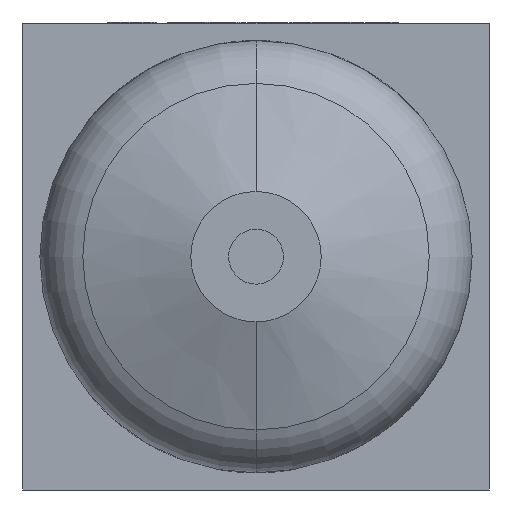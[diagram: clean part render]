
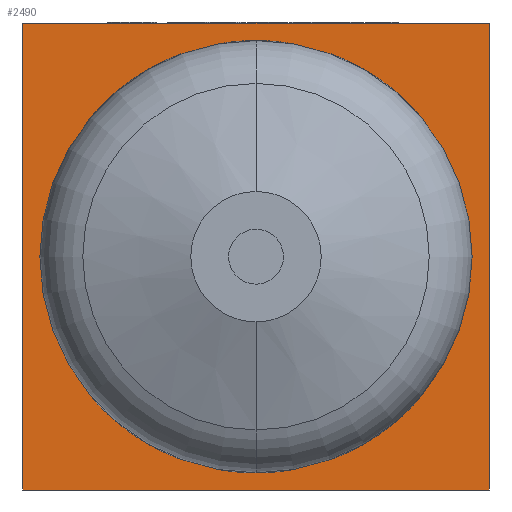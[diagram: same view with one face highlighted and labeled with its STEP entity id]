
A CAD part, front view. The second image highlights one B-rep face of the part: STEP entity #2490.
In plain terms, the highlighted planar face has unit normal (0, -1, 0).
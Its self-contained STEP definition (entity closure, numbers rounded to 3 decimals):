
#362 = DIRECTION ( 'NONE',  ( 0., 0., 1. ) ) ;
#614 = CARTESIAN_POINT ( 'NONE',  ( 34., -34., 34. ) ) ;
#1324 = VERTEX_POINT ( 'NONE', #7610 ) ;
#1559 = CARTESIAN_POINT ( 'NONE',  ( -34., -34., -34. ) ) ;
#1680 = VERTEX_POINT ( 'NONE', #614 ) ;
#2092 = VECTOR ( 'NONE', #3230, 1000. ) ;
#2101 = CARTESIAN_POINT ( 'NONE',  ( -34., -34., 34. ) ) ;
#2490 = ADVANCED_FACE ( 'NONE', ( #5354 ), #9972, .F. ) ;
#2687 = EDGE_CURVE ( 'NONE', #1680, #8763, #8980, .T. ) ;
#2912 = CARTESIAN_POINT ( 'NONE',  ( 34., -34., -34. ) ) ;
#3230 = DIRECTION ( 'NONE',  ( 1., 0., 0. ) ) ;
#3325 = VECTOR ( 'NONE', #8583, 1000. ) ;
#4537 = CARTESIAN_POINT ( 'NONE',  ( -34., -34., 34. ) ) ;
#4914 = EDGE_LOOP ( 'NONE', ( #9689, #6261, #5538, #5576 ) ) ;
#5354 = FACE_OUTER_BOUND ( 'NONE', #4914, .T. ) ;
#5422 = CARTESIAN_POINT ( 'NONE',  ( -34., -34., 34. ) ) ;
#5465 = LINE ( 'NONE', #2101, #3325 ) ;
#5538 = ORIENTED_EDGE ( 'NONE', *, *, #6599, .F. ) ;
#5576 = ORIENTED_EDGE ( 'NONE', *, *, #9864, .T. ) ;
#5633 = VECTOR ( 'NONE', #8261, 1000. ) ;
#5671 = VERTEX_POINT ( 'NONE', #5422 ) ;
#5959 = DIRECTION ( 'NONE',  ( 0., 1., 0. ) ) ;
#6261 = ORIENTED_EDGE ( 'NONE', *, *, #2687, .F. ) ;
#6358 = LINE ( 'NONE', #1559, #2092 ) ;
#6488 = AXIS2_PLACEMENT_3D ( 'NONE', #4537, #5959, #362 ) ;
#6599 = EDGE_CURVE ( 'NONE', #5671, #1680, #6639, .T. ) ;
#6639 = LINE ( 'NONE', #8922, #5633 ) ;
#6861 = VECTOR ( 'NONE', #9784, 1000. ) ;
#7610 = CARTESIAN_POINT ( 'NONE',  ( -34., -34., -34. ) ) ;
#8158 = CARTESIAN_POINT ( 'NONE',  ( 34., -34., 34. ) ) ;
#8261 = DIRECTION ( 'NONE',  ( 1., 0., 0. ) ) ;
#8583 = DIRECTION ( 'NONE',  ( 0., 0., -1. ) ) ;
#8763 = VERTEX_POINT ( 'NONE', #2912 ) ;
#8922 = CARTESIAN_POINT ( 'NONE',  ( -34., -34., 34. ) ) ;
#8980 = LINE ( 'NONE', #8158, #6861 ) ;
#9018 = EDGE_CURVE ( 'NONE', #1324, #8763, #6358, .T. ) ;
#9689 = ORIENTED_EDGE ( 'NONE', *, *, #9018, .T. ) ;
#9784 = DIRECTION ( 'NONE',  ( 0., 0., -1. ) ) ;
#9864 = EDGE_CURVE ( 'NONE', #5671, #1324, #5465, .T. ) ;
#9972 = PLANE ( 'NONE',  #6488 ) ;
